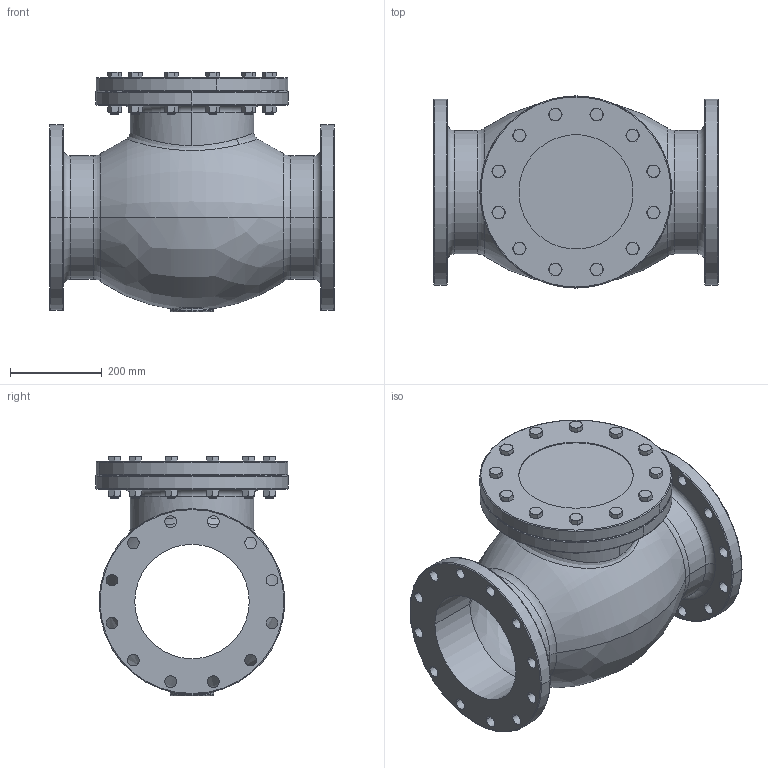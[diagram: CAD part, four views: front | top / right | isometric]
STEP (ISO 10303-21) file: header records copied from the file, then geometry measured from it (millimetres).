
FILE_DESCRIPTION(('Open CASCADE Model'),'2;1');
FILE_NAME('Open CASCADE Shape Model','2022-03-10T07:42:45',('Author'),( 'Open CASCADE'),'Open CASCADE STEP processor 7.3','Open CASCADE 7.3' ,'Unknown');
FILE_SCHEMA(('AUTOMOTIVE_DESIGN { 1 0 10303 214 1 1 1 1 }'));
Length unit declared in the file: millimetre
Products named in the file (27): Open CASCADE STEP translator 7.3 1; Open CASCADE STEP translator 7.3 1.1; Open CASCADE STEP translator 7.3 1.2; Open CASCADE STEP translator 7.3 1.3; Open CASCADE STEP translator 7.3 1.4; Open CASCADE STEP translator 7.3 1.5; Open CASCADE STEP translator 7.3 1.6; Open CASCADE STEP translator 7.3 1.7; Open CASCADE STEP translator 7.3 1.8; Open CASCADE STEP translator 7.3 1.9; Open CASCADE STEP translator 7.3 1.10; Open CASCADE STEP translator 7.3 1.11; Open CASCADE STEP translator 7.3 1.12; Open CASCADE STEP translator 7.3 1.13; Open CASCADE STEP translator 7.3 1.14; Open CASCADE STEP translator 7.3 1.15; Open CASCADE STEP translator 7.3 1.16; Open CASCADE STEP translator 7.3 1.17; Open CASCADE STEP translator 7.3 1.18; Open CASCADE STEP translator 7.3 1.19; Open CASCADE STEP translator 7.3 1.20; Open CASCADE STEP translator 7.3 1.21; Open CASCADE STEP translator 7.3 1.22; Open CASCADE STEP translator 7.3 1.23; Open CASCADE STEP translator 7.3 1.24; Open CASCADE STEP translator 7.3 1.25; Open CASCADE STEP translator 7.3 1.26
Assembly tree (26 placements, depth 2):
  Open CASCADE STEP translator 7.3 1
    Open CASCADE STEP translator 7.3 1.1
    Open CASCADE STEP translator 7.3 1.2
    Open CASCADE STEP translator 7.3 1.3
    Open CASCADE STEP translator 7.3 1.4
    Open CASCADE STEP translator 7.3 1.5
    Open CASCADE STEP translator 7.3 1.6
    Open CASCADE STEP translator 7.3 1.7
    Open CASCADE STEP translator 7.3 1.8
    Open CASCADE STEP translator 7.3 1.9
    Open CASCADE STEP translator 7.3 1.10
    Open CASCADE STEP translator 7.3 1.11
    Open CASCADE STEP translator 7.3 1.12
    Open CASCADE STEP translator 7.3 1.13
    Open CASCADE STEP translator 7.3 1.14
    Open CASCADE STEP translator 7.3 1.15
    Open CASCADE STEP translator 7.3 1.16
    Open CASCADE STEP translator 7.3 1.17
    Open CASCADE STEP translator 7.3 1.18
    Open CASCADE STEP translator 7.3 1.19
    Open CASCADE STEP translator 7.3 1.20
    Open CASCADE STEP translator 7.3 1.21
    Open CASCADE STEP translator 7.3 1.22
    Open CASCADE STEP translator 7.3 1.23
    Open CASCADE STEP translator 7.3 1.24
    Open CASCADE STEP translator 7.3 1.25
    Open CASCADE STEP translator 7.3 1.26
Bounding box: 622.3 x 420 x 523.72 mm (x, y, z)
Volume: 17816613.7 mm3; surface area: 2384495.9 mm2
Topology: 26 solids, 26 shells, 713 faces, 1698 edges, 1056 vertices
Faces by surface type: plane 287, cone 216, cylinder 172, torus 28, revolution 6, bspline 4
Entity records: 63520 total; most frequent: CARTESIAN_POINT 30476, DIRECTION 5726, ORIENTED_EDGE 3396, PCURVE 3396, DEFINITIONAL_REPRESENTATION 3396, LINE 2628, VECTOR 2628, EDGE_CURVE 1698
